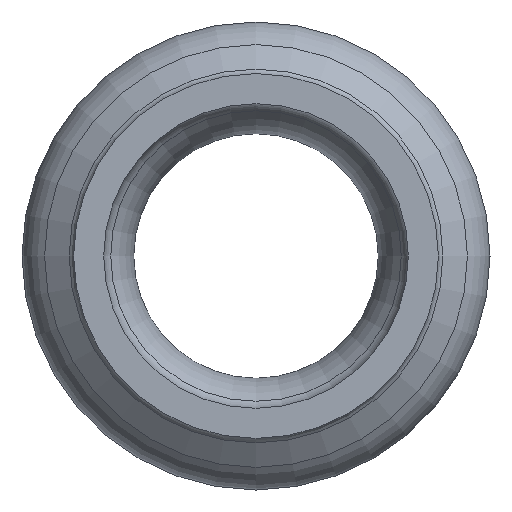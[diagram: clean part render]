
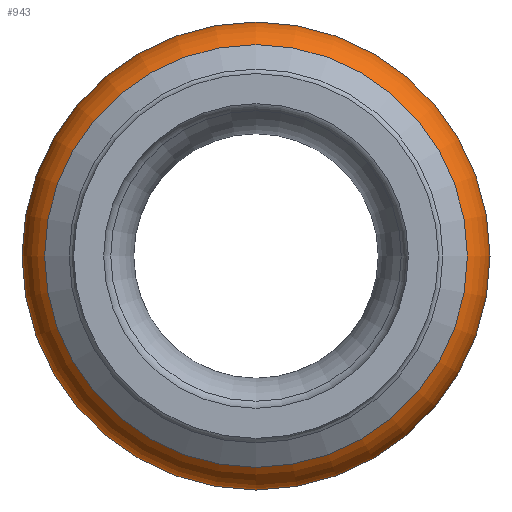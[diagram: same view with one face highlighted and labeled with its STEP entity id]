
A CAD part, left-side view. The second image highlights one B-rep face of the part: STEP entity #943.
In plain terms, the highlighted toroidal (fillet/blend) face has major radius 12.522 mm and minor radius 3.886 mm.
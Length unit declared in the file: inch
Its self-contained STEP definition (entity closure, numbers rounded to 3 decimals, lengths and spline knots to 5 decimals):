
#105=FACE_OUTER_BOUND('',#145,.T.);
#145=EDGE_LOOP('',(#595,#596,#597,#598,#599,#600,#601,#602));
#192=CIRCLE('',#1010,0.58307);
#193=CIRCLE('',#1011,0.58307);
#194=CIRCLE('',#1012,0.58307);
#195=CIRCLE('',#1014,0.58307);
#196=CIRCLE('',#1015,0.58307);
#197=CIRCLE('',#1016,0.58307);
#198=CIRCLE('',#1017,0.153);
#323=VERTEX_POINT('',#1592);
#324=VERTEX_POINT('',#1593);
#325=VERTEX_POINT('',#1595);
#326=VERTEX_POINT('',#1600);
#327=VERTEX_POINT('',#1601);
#328=VERTEX_POINT('',#1603);
#436=EDGE_CURVE('',#323,#324,#192,.T.);
#437=EDGE_CURVE('',#325,#323,#193,.T.);
#439=EDGE_CURVE('',#324,#325,#194,.T.);
#440=EDGE_CURVE('',#326,#327,#195,.T.);
#441=EDGE_CURVE('',#328,#326,#196,.T.);
#442=EDGE_CURVE('',#327,#328,#197,.T.);
#443=EDGE_CURVE('',#327,#324,#198,.T.);
#595=ORIENTED_EDGE('',*,*,#440,.F.);
#596=ORIENTED_EDGE('',*,*,#441,.F.);
#597=ORIENTED_EDGE('',*,*,#442,.F.);
#598=ORIENTED_EDGE('',*,*,#443,.T.);
#599=ORIENTED_EDGE('',*,*,#439,.T.);
#600=ORIENTED_EDGE('',*,*,#437,.T.);
#601=ORIENTED_EDGE('',*,*,#436,.T.);
#602=ORIENTED_EDGE('',*,*,#443,.F.);
#880=TOROIDAL_SURFACE('',#1013,0.493,0.153);
#943=ADVANCED_FACE('',(#105),#880,.T.);
#1010=AXIS2_PLACEMENT_3D('',#1594,#1206,#1207);
#1011=AXIS2_PLACEMENT_3D('',#1596,#1208,#1209);
#1012=AXIS2_PLACEMENT_3D('',#1598,#1211,#1212);
#1013=AXIS2_PLACEMENT_3D('',#1599,#1213,#1214);
#1014=AXIS2_PLACEMENT_3D('',#1602,#1215,#1216);
#1015=AXIS2_PLACEMENT_3D('',#1604,#1217,#1218);
#1016=AXIS2_PLACEMENT_3D('',#1605,#1219,#1220);
#1017=AXIS2_PLACEMENT_3D('',#1606,#1221,#1222);
#1206=DIRECTION('center_axis',(1.,0.,0.));
#1207=DIRECTION('ref_axis',(0.,1.,0.));
#1208=DIRECTION('center_axis',(1.,0.,0.));
#1209=DIRECTION('ref_axis',(0.,1.,0.));
#1211=DIRECTION('center_axis',(1.,0.,0.));
#1212=DIRECTION('ref_axis',(0.,1.,0.));
#1213=DIRECTION('center_axis',(1.,0.,0.));
#1214=DIRECTION('ref_axis',(0.,0.,-1.));
#1215=DIRECTION('center_axis',(1.,0.,0.));
#1216=DIRECTION('ref_axis',(0.,1.,0.));
#1217=DIRECTION('center_axis',(1.,0.,0.));
#1218=DIRECTION('ref_axis',(0.,1.,0.));
#1219=DIRECTION('center_axis',(1.,0.,0.));
#1220=DIRECTION('ref_axis',(0.,1.,0.));
#1221=DIRECTION('center_axis',(0.,-1.,0.));
#1222=DIRECTION('ref_axis',(0.,0.,1.));
#1592=CARTESIAN_POINT('',(-1.11968,0.58307,0.));
#1593=CARTESIAN_POINT('',(-1.11968,0.,0.58307));
#1594=CARTESIAN_POINT('Origin',(-1.11968,0.,
0.));
#1595=CARTESIAN_POINT('',(-1.11968,-0.58307,0.));
#1596=CARTESIAN_POINT('Origin',(-1.11968,0.,
0.));
#1598=CARTESIAN_POINT('Origin',(-1.11968,0.,
0.));
#1599=CARTESIAN_POINT('Origin',(-0.996,0.,0.));
#1600=CARTESIAN_POINT('',(-0.87232,0.58307,0.));
#1601=CARTESIAN_POINT('',(-0.87232,0.,0.58307));
#1602=CARTESIAN_POINT('Origin',(-0.87232,0.,
0.));
#1603=CARTESIAN_POINT('',(-0.87232,-0.58307,0.));
#1604=CARTESIAN_POINT('Origin',(-0.87232,0.,
0.));
#1605=CARTESIAN_POINT('Origin',(-0.87232,0.,
0.));
#1606=CARTESIAN_POINT('Origin',(-0.996,0.,0.493));
